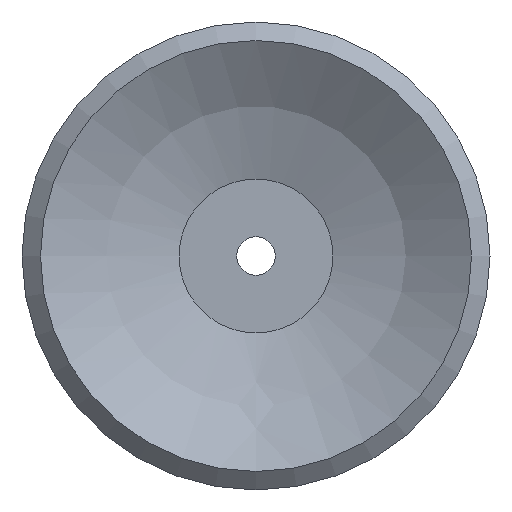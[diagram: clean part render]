
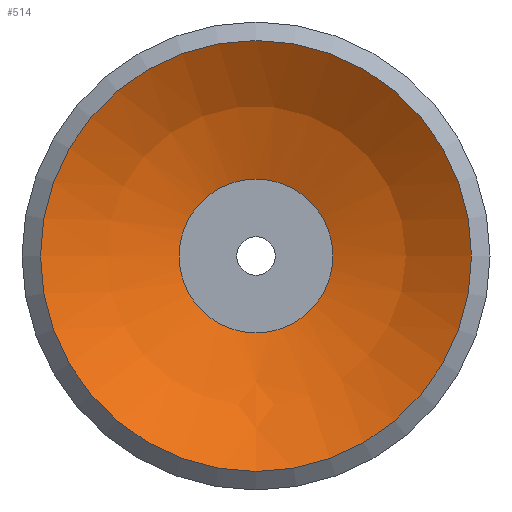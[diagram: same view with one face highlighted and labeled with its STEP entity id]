
A CAD part, front view. The second image highlights one B-rep face of the part: STEP entity #514.
In plain terms, the highlighted spherical face has radius 11.5 mm.
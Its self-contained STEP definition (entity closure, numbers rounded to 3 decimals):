
#514=ADVANCED_FACE('',(#942,#943),#944,.F.);
#942=FACE_OUTER_BOUND('',#1406,.T.);
#943=FACE_OUTER_BOUND('',#1407,.T.);
#944=SPHERICAL_SURFACE('',#1408,11.5);
#1406=EDGE_LOOP('',(#2624));
#1407=EDGE_LOOP('',(#2625));
#1408=AXIS2_PLACEMENT_3D('',#2626,#2627,#2628);
#2624=ORIENTED_EDGE('',*,*,#3034,.T.);
#2625=ORIENTED_EDGE('',*,*,#3133,.F.);
#2626=CARTESIAN_POINT('',(0.001,9.494,-22.735));
#2627=DIRECTION('',(0.0,0.,-1.0));
#2628=DIRECTION('',(1.0,0.0,0.0));
#3034=EDGE_CURVE('',#3602,#3602,#3603,.T.);
#3133=EDGE_CURVE('',#3762,#3762,#3763,.T.);
#3602=VERTEX_POINT('',#5119);
#3603=CIRCLE('',#5120,7.0);
#3762=VERTEX_POINT('',#5279);
#3763=CIRCLE('',#5280,2.5);
#5119=CARTESIAN_POINT('',(0.001,16.494,-13.611));
#5120=AXIS2_PLACEMENT_3D('',#5664,#5665,#5666);
#5279=CARTESIAN_POINT('',(0.001,11.994,-11.51));
#5280=AXIS2_PLACEMENT_3D('',#5961,#5962,#5963);
#5664=CARTESIAN_POINT('',(0.001,9.494,-13.611));
#5665=DIRECTION('',(0.0,0.,-1.0));
#5666=DIRECTION('',(0.0,1.0,0.));
#5961=CARTESIAN_POINT('',(0.001,9.494,-11.51));
#5962=DIRECTION('',(0.0,0.,-1.0));
#5963=DIRECTION('',(0.0,1.0,0.));
